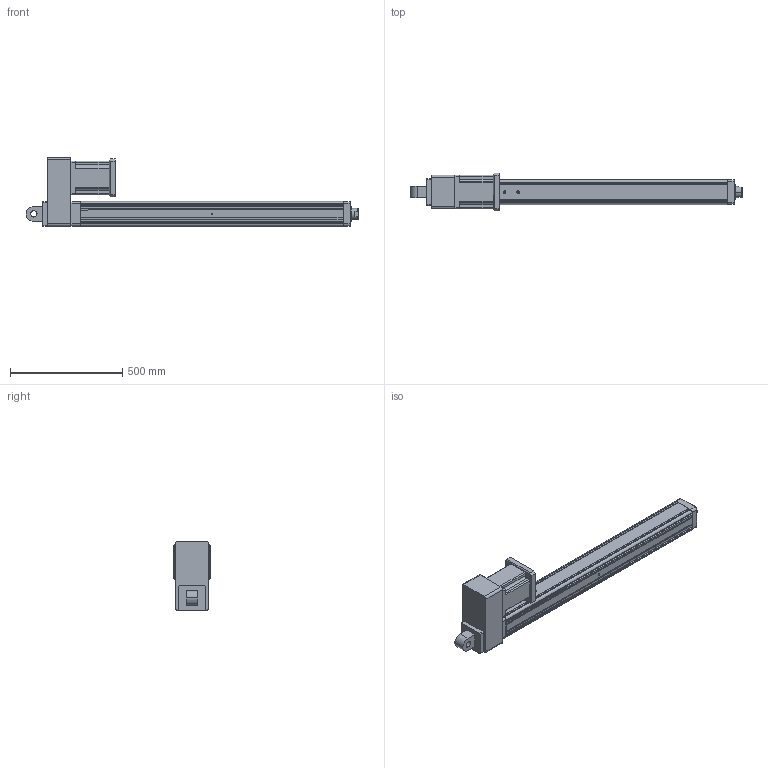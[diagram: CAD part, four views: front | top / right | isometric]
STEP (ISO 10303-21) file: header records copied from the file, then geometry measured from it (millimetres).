
FILE_DESCRIPTION (( 'STEP AP203' ), '1' );
FILE_NAME ('YRJ110-L1000-H6K2.STEP', '2020-01-04T07:06:15', ( 'User' ), ( 'China' ), 'SwSTEP 2.0', 'SolidWorks 2016', '' );
FILE_SCHEMA (( 'CONFIG_CONTROL_DESIGN' ));
Length unit declared in the file: millimetre
Products named in the file (8): H5-110-1; H6-110; H3-110-2; K2-110; YRJ110-L1000-H6K2; 095-100俴最倰第; 萇儂碟-110; 142熬厒儂
Assembly tree (7 placements, depth 2):
  YRJ110-L1000-H6K2
    095-100俴最倰第
    萇儂碟-110
    142熬厒儂
    H5-110-1
    H6-110
    H3-110-2
    K2-110
Bounding box: 1476 x 168 x 305.5 mm (x, y, z)
Volume: 14973171.9 mm3; surface area: 1539733.3 mm2
Topology: 7 solids, 7 shells, 316 faces, 865 edges, 559 vertices
Faces by surface type: plane 177, cylinder 112, cone 27
Entity records: 11082 total; most frequent: CARTESIAN_POINT 2074, DIRECTION 1718, ORIENTED_EDGE 1698, EDGE_CURVE 849, LINE 588, VECTOR 588, AXIS2_PLACEMENT_3D 565, VERTEX_POINT 559
